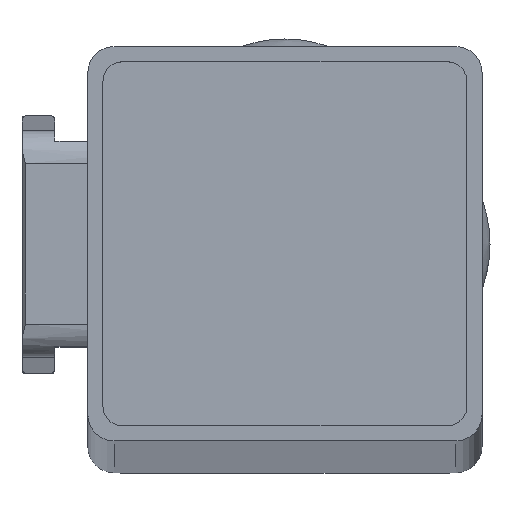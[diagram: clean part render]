
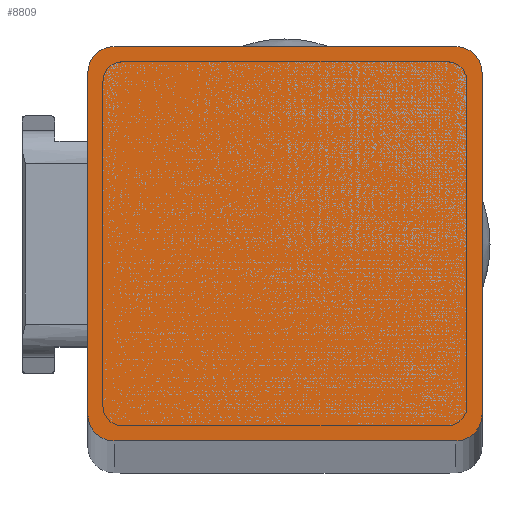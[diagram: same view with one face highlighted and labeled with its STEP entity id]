
A CAD part, top view. The second image highlights one B-rep face of the part: STEP entity #8809.
In plain terms, the highlighted planar face has unit normal (0, 0, 1).
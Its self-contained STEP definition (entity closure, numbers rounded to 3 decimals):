
#437 = CARTESIAN_POINT ( 'NONE',  ( 3313.169, -3886.5, 456.646 ) ) ;
#888 = VERTEX_POINT ( 'NONE', #6111 ) ;
#977 = CARTESIAN_POINT ( 'NONE',  ( 3366., -3886.5, 456.646 ) ) ;
#1098 = DIRECTION ( 'NONE',  ( 1., 0., 0. ) ) ;
#1379 = DIRECTION ( 'NONE',  ( 1., 0., 0. ) ) ;
#2502 = LINE ( 'NONE', #437, #9871 ) ;
#2836 = AXIS2_PLACEMENT_3D ( 'NONE', #19634, #13556, #21971 ) ;
#2972 = VERTEX_POINT ( 'NONE', #23904 ) ;
#3027 = VECTOR ( 'NONE', #27034, 1000. ) ;
#3101 = ORIENTED_EDGE ( 'NONE', *, *, #6675, .F. ) ;
#4007 = CARTESIAN_POINT ( 'NONE',  ( 3366., -3830.5, 456.646 ) ) ;
#4356 = VERTEX_POINT ( 'NONE', #6887 ) ;
#4759 = VECTOR ( 'NONE', #23020, 1000. ) ;
#4932 = CARTESIAN_POINT ( 'NONE',  ( 3340., -3856.5, 456.646 ) ) ;
#5140 = CIRCLE ( 'NONE', #5586, 4. ) ;
#5586 = AXIS2_PLACEMENT_3D ( 'NONE', #16916, #19004, #10190 ) ;
#5665 = EDGE_CURVE ( 'NONE', #8323, #14614, #8302, .T. ) ;
#6111 = CARTESIAN_POINT ( 'NONE',  ( 3366., -3826.5, 456.646 ) ) ;
#6675 = EDGE_CURVE ( 'NONE', #2972, #21203, #24867, .T. ) ;
#6887 = CARTESIAN_POINT ( 'NONE',  ( 3314., -3886.5, 456.646 ) ) ;
#6917 = EDGE_CURVE ( 'NONE', #12367, #4356, #2502, .T. ) ;
#7450 = CARTESIAN_POINT ( 'NONE',  ( 3366., -3882.5, 456.646 ) ) ;
#7887 = ORIENTED_EDGE ( 'NONE', *, *, #20964, .F. ) ;
#8302 = LINE ( 'NONE', #18619, #4759 ) ;
#8323 = VERTEX_POINT ( 'NONE', #8936 ) ;
#8809 = ADVANCED_FACE ( 'NONE', ( #22503 ), #15365, .F. ) ;
#8936 = CARTESIAN_POINT ( 'NONE',  ( 3370., -3830.5, 456.646 ) ) ;
#9229 = DIRECTION ( 'NONE',  ( 0., 0., -1. ) ) ;
#9871 = VECTOR ( 'NONE', #17348, 1000. ) ;
#10015 = DIRECTION ( 'NONE',  ( 1., 0., 0. ) ) ;
#10190 = DIRECTION ( 'NONE',  ( 1., 0., 0. ) ) ;
#10460 = CARTESIAN_POINT ( 'NONE',  ( 3314., -3826.5, 456.646 ) ) ;
#12367 = VERTEX_POINT ( 'NONE', #977 ) ;
#12742 = ORIENTED_EDGE ( 'NONE', *, *, #14666, .F. ) ;
#13021 = EDGE_LOOP ( 'NONE', ( #7887, #27164, #17095, #20161, #3101, #14071, #12742, #21871 ) ) ;
#13556 = DIRECTION ( 'NONE',  ( 0., 0., -1. ) ) ;
#13614 = CIRCLE ( 'NONE', #23316, 4. ) ;
#13892 = EDGE_CURVE ( 'NONE', #21203, #888, #20338, .T. ) ;
#14071 = ORIENTED_EDGE ( 'NONE', *, *, #19439, .F. ) ;
#14537 = CARTESIAN_POINT ( 'NONE',  ( 3313.169, -3826.5, 456.646 ) ) ;
#14597 = VERTEX_POINT ( 'NONE', #24671 ) ;
#14614 = VERTEX_POINT ( 'NONE', #15951 ) ;
#14666 = EDGE_CURVE ( 'NONE', #4356, #14597, #5140, .T. ) ;
#15365 = PLANE ( 'NONE',  #17355 ) ;
#15643 = CIRCLE ( 'NONE', #19615, 4. ) ;
#15951 = CARTESIAN_POINT ( 'NONE',  ( 3370., -3882.5, 456.646 ) ) ;
#16916 = CARTESIAN_POINT ( 'NONE',  ( 3314., -3882.5, 456.646 ) ) ;
#17095 = ORIENTED_EDGE ( 'NONE', *, *, #21105, .F. ) ;
#17348 = DIRECTION ( 'NONE',  ( -1., 0., 0. ) ) ;
#17355 = AXIS2_PLACEMENT_3D ( 'NONE', #4932, #18216, #24302 ) ;
#18216 = DIRECTION ( 'NONE',  ( 0., 0., -1. ) ) ;
#18612 = CARTESIAN_POINT ( 'NONE',  ( 3310., -3884.784, 456.646 ) ) ;
#18619 = CARTESIAN_POINT ( 'NONE',  ( 3370., -3884.784, 456.646 ) ) ;
#19004 = DIRECTION ( 'NONE',  ( 0., 0., -1. ) ) ;
#19312 = VECTOR ( 'NONE', #10015, 1000. ) ;
#19439 = EDGE_CURVE ( 'NONE', #14597, #2972, #26484, .T. ) ;
#19615 = AXIS2_PLACEMENT_3D ( 'NONE', #4007, #24669, #1379 ) ;
#19634 = CARTESIAN_POINT ( 'NONE',  ( 3314., -3830.5, 456.646 ) ) ;
#20161 = ORIENTED_EDGE ( 'NONE', *, *, #13892, .F. ) ;
#20338 = LINE ( 'NONE', #14537, #19312 ) ;
#20964 = EDGE_CURVE ( 'NONE', #14614, #12367, #13614, .T. ) ;
#21105 = EDGE_CURVE ( 'NONE', #888, #8323, #15643, .T. ) ;
#21203 = VERTEX_POINT ( 'NONE', #10460 ) ;
#21871 = ORIENTED_EDGE ( 'NONE', *, *, #6917, .F. ) ;
#21971 = DIRECTION ( 'NONE',  ( 1., 0., 0. ) ) ;
#22503 = FACE_OUTER_BOUND ( 'NONE', #13021, .T. ) ;
#23020 = DIRECTION ( 'NONE',  ( 0., -1., 0. ) ) ;
#23316 = AXIS2_PLACEMENT_3D ( 'NONE', #7450, #9229, #1098 ) ;
#23904 = CARTESIAN_POINT ( 'NONE',  ( 3310., -3830.5, 456.646 ) ) ;
#24302 = DIRECTION ( 'NONE',  ( -1., 0., 0. ) ) ;
#24669 = DIRECTION ( 'NONE',  ( 0., 0., -1. ) ) ;
#24671 = CARTESIAN_POINT ( 'NONE',  ( 3310., -3882.5, 456.646 ) ) ;
#24867 = CIRCLE ( 'NONE', #2836, 4. ) ;
#26484 = LINE ( 'NONE', #18612, #3027 ) ;
#27034 = DIRECTION ( 'NONE',  ( 0., 1., 0. ) ) ;
#27164 = ORIENTED_EDGE ( 'NONE', *, *, #5665, .F. ) ;
